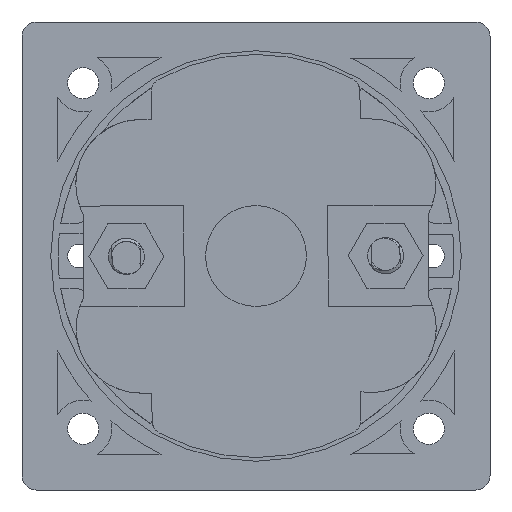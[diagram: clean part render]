
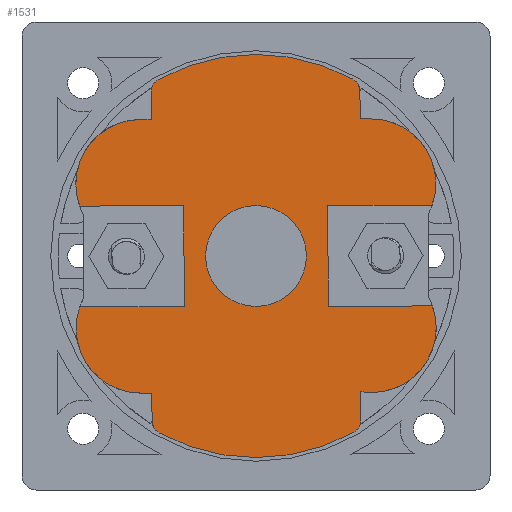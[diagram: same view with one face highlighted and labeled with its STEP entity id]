
A CAD part, front view. The second image highlights one B-rep face of the part: STEP entity #1531.
In plain terms, the highlighted planar face has unit normal (0, -1, 0).
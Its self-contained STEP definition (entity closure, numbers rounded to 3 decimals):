
#1531=ADVANCED_FACE('',(#3430,#3431),#1838,.F.);
#1838=PLANE('',#10195);
#2089=LINE('',#13601,#2772);
#2095=LINE('',#13623,#2778);
#2103=LINE('',#13648,#2786);
#2108=LINE('',#13669,#2791);
#2276=LINE('',#23850,#2959);
#2278=LINE('',#23854,#2961);
#2284=LINE('',#23884,#2967);
#2285=LINE('',#23908,#2968);
#2438=LINE('',#52296,#3121);
#2443=LINE('',#52306,#3126);
#2444=LINE('',#52308,#3127);
#2446=LINE('',#52312,#3129);
#2451=LINE('',#52322,#3134);
#2452=LINE('',#52324,#3135);
#2772=VECTOR('',#11109,1.);
#2778=VECTOR('',#11135,1.);
#2786=VECTOR('',#11153,1.);
#2791=VECTOR('',#11178,1.);
#2959=VECTOR('',#11816,1.);
#2961=VECTOR('',#11820,1.);
#2967=VECTOR('',#11842,1.);
#2968=VECTOR('',#11849,1.);
#3121=VECTOR('',#12156,1.);
#3126=VECTOR('',#12163,1.);
#3127=VECTOR('',#12166,1.);
#3129=VECTOR('',#12172,1.);
#3134=VECTOR('',#12179,1.);
#3135=VECTOR('',#12182,1.);
#3430=FACE_BOUND('',#3952,.T.);
#3431=FACE_BOUND('',#3953,.T.);
#3952=EDGE_LOOP('',(#6236,#6237,#6238,#6239,#6240,#6241,#6242,#6243,#6244,
#6245,#6246,#6247,#6248,#6249,#6250,#6251,#6252,#6253,#6254,#6255,#6256,
#6257,#6258,#6259,#6260));
#3953=EDGE_LOOP('',(#6261));
#6236=ORIENTED_EDGE('',*,*,#9008,.F.);
#6237=ORIENTED_EDGE('',*,*,#8569,.T.);
#6238=ORIENTED_EDGE('',*,*,#8572,.T.);
#6239=ORIENTED_EDGE('',*,*,#8201,.T.);
#6240=ORIENTED_EDGE('',*,*,#8199,.T.);
#6241=ORIENTED_EDGE('',*,*,#8196,.T.);
#6242=ORIENTED_EDGE('',*,*,#8193,.T.);
#6243=ORIENTED_EDGE('',*,*,#8190,.T.);
#6244=ORIENTED_EDGE('',*,*,#8575,.T.);
#6245=ORIENTED_EDGE('',*,*,#8578,.T.);
#6246=ORIENTED_EDGE('',*,*,#8581,.T.);
#6247=ORIENTED_EDGE('',*,*,#9015,.F.);
#6248=ORIENTED_EDGE('',*,*,#9010,.F.);
#6249=ORIENTED_EDGE('',*,*,#9016,.F.);
#6250=ORIENTED_EDGE('',*,*,#8555,.T.);
#6251=ORIENTED_EDGE('',*,*,#8558,.T.);
#6252=ORIENTED_EDGE('',*,*,#8179,.T.);
#6253=ORIENTED_EDGE('',*,*,#8177,.T.);
#6254=ORIENTED_EDGE('',*,*,#8174,.T.);
#6255=ORIENTED_EDGE('',*,*,#8171,.T.);
#6256=ORIENTED_EDGE('',*,*,#8167,.T.);
#6257=ORIENTED_EDGE('',*,*,#8560,.T.);
#6258=ORIENTED_EDGE('',*,*,#8564,.T.);
#6259=ORIENTED_EDGE('',*,*,#9007,.F.);
#6260=ORIENTED_EDGE('',*,*,#9002,.F.);
#6261=ORIENTED_EDGE('',*,*,#9001,.F.);
#7164=VERTEX_POINT('',#13600);
#7165=VERTEX_POINT('',#13602);
#7167=VERTEX_POINT('',#13609);
#7169=VERTEX_POINT('',#13615);
#7170=VERTEX_POINT('',#13620);
#7171=VERTEX_POINT('',#13624);
#7174=VERTEX_POINT('',#13647);
#7175=VERTEX_POINT('',#13649);
#7177=VERTEX_POINT('',#13655);
#7179=VERTEX_POINT('',#13661);
#7180=VERTEX_POINT('',#13666);
#7181=VERTEX_POINT('',#13670);
#7396=VERTEX_POINT('',#23843);
#7397=VERTEX_POINT('',#23845);
#7399=VERTEX_POINT('',#23853);
#7402=VERTEX_POINT('',#23861);
#7405=VERTEX_POINT('',#23877);
#7406=VERTEX_POINT('',#23879);
#7409=VERTEX_POINT('',#23895);
#7411=VERTEX_POINT('',#23907);
#7413=VERTEX_POINT('',#23913);
#7701=VERTEX_POINT('',#52294);
#7702=VERTEX_POINT('',#52297);
#7703=VERTEX_POINT('',#52298);
#7706=VERTEX_POINT('',#52313);
#7707=VERTEX_POINT('',#52314);
#8167=EDGE_CURVE('',#7165,#7164,#2089,.T.);
#8171=EDGE_CURVE('',#7167,#7165,#9364,.T.);
#8174=EDGE_CURVE('',#7169,#7167,#9366,.T.);
#8177=EDGE_CURVE('',#7170,#7169,#9368,.T.);
#8179=EDGE_CURVE('',#7171,#7170,#2095,.T.);
#8190=EDGE_CURVE('',#7175,#7174,#2103,.T.);
#8193=EDGE_CURVE('',#7177,#7175,#9371,.T.);
#8196=EDGE_CURVE('',#7179,#7177,#9373,.T.);
#8199=EDGE_CURVE('',#7180,#7179,#9375,.T.);
#8201=EDGE_CURVE('',#7181,#7180,#2108,.T.);
#8555=EDGE_CURVE('',#7397,#7396,#9472,.T.);
#8558=EDGE_CURVE('',#7396,#7171,#2276,.T.);
#8560=EDGE_CURVE('',#7164,#7399,#2278,.T.);
#8564=EDGE_CURVE('',#7399,#7402,#9475,.T.);
#8569=EDGE_CURVE('',#7406,#7405,#9476,.T.);
#8572=EDGE_CURVE('',#7405,#7181,#2284,.T.);
#8575=EDGE_CURVE('',#7174,#7409,#9478,.T.);
#8578=EDGE_CURVE('',#7409,#7411,#2285,.T.);
#8581=EDGE_CURVE('',#7411,#7413,#9480,.T.);
#9001=EDGE_CURVE('',#7701,#7701,#9500,.T.);
#9002=EDGE_CURVE('',#7702,#7703,#2438,.T.);
#9007=EDGE_CURVE('',#7703,#7402,#2443,.T.);
#9008=EDGE_CURVE('',#7406,#7702,#2444,.T.);
#9010=EDGE_CURVE('',#7706,#7707,#2446,.T.);
#9015=EDGE_CURVE('',#7707,#7413,#2451,.T.);
#9016=EDGE_CURVE('',#7397,#7706,#2452,.T.);
#9364=CIRCLE('',#9840,2.);
#9366=CIRCLE('',#9843,28.);
#9368=CIRCLE('',#9846,2.);
#9371=CIRCLE('',#9855,2.);
#9373=CIRCLE('',#9858,28.);
#9375=CIRCLE('',#9861,2.);
#9472=CIRCLE('',#10095,9.);
#9475=CIRCLE('',#10101,9.);
#9476=CIRCLE('',#10104,9.);
#9478=CIRCLE('',#10108,8.96);
#9480=CIRCLE('',#10112,9.);
#9500=CIRCLE('',#10185,7.);
#9840=AXIS2_PLACEMENT_3D('',#13608,#11116,#11117);
#9843=AXIS2_PLACEMENT_3D('',#13614,#11123,#11124);
#9846=AXIS2_PLACEMENT_3D('',#13619,#11130,#11131);
#9855=AXIS2_PLACEMENT_3D('',#13654,#11159,#11160);
#9858=AXIS2_PLACEMENT_3D('',#13660,#11166,#11167);
#9861=AXIS2_PLACEMENT_3D('',#13665,#11173,#11174);
#10095=AXIS2_PLACEMENT_3D('',#23844,#11809,#11810);
#10101=AXIS2_PLACEMENT_3D('',#23862,#11827,#11828);
#10104=AXIS2_PLACEMENT_3D('',#23878,#11835,#11836);
#10108=AXIS2_PLACEMENT_3D('',#23896,#11845,#11846);
#10112=AXIS2_PLACEMENT_3D('',#23914,#11855,#11856);
#10185=AXIS2_PLACEMENT_3D('',#52293,#12152,#12153);
#10195=AXIS2_PLACEMENT_3D('',#52328,#12188,#12189);
#11109=DIRECTION('',(0.003,0.,-1.));
#11116=DIRECTION('',(0.,-1.,0.));
#11117=DIRECTION('',(1.,0.,0.003));
#11123=DIRECTION('',(0.,-1.,0.));
#11124=DIRECTION('',(1.,0.,0.003));
#11130=DIRECTION('',(0.,-1.,0.));
#11131=DIRECTION('',(1.,0.,0.003));
#11135=DIRECTION('',(-0.003,0.,1.));
#11153=DIRECTION('',(-0.003,0.,1.));
#11159=DIRECTION('',(0.,-1.,0.));
#11160=DIRECTION('',(1.,0.,0.003));
#11166=DIRECTION('',(0.,-1.,0.));
#11167=DIRECTION('',(1.,0.,0.003));
#11173=DIRECTION('',(0.,-1.,0.));
#11174=DIRECTION('',(1.,0.,0.003));
#11178=DIRECTION('',(0.003,0.,-1.));
#11809=DIRECTION('',(0.,-1.,0.));
#11810=DIRECTION('',(1.,0.,0.003));
#11816=DIRECTION('',(-1.,0.,-0.003));
#11820=DIRECTION('',(-1.,0.,-0.003));
#11827=DIRECTION('',(0.,-1.,0.));
#11828=DIRECTION('',(-1.,0.,-0.003));
#11835=DIRECTION('',(0.,-1.,0.));
#11836=DIRECTION('',(-0.89,0.,0.456));
#11842=DIRECTION('',(1.,0.,0.003));
#11845=DIRECTION('',(0.,-1.,0.));
#11846=DIRECTION('',(0.,0.,-1.));
#11849=DIRECTION('',(1.,0.,0.003));
#11855=DIRECTION('',(0.,-1.,0.));
#11856=DIRECTION('',(0.,0.,-1.));
#12152=DIRECTION('',(0.,-1.,0.));
#12153=DIRECTION('',(-1.,0.,-0.003));
#12156=DIRECTION('',(-0.003,0.,1.));
#12163=DIRECTION('',(-1.,0.,-0.003));
#12166=DIRECTION('',(1.,0.,0.003));
#12172=DIRECTION('',(0.003,0.,-1.));
#12179=DIRECTION('',(1.,0.,0.003));
#12182=DIRECTION('',(-1.,0.,-0.003));
#12188=DIRECTION('',(0.,1.,0.));
#12189=DIRECTION('',(0.,0.,1.));
#13600=CARTESIAN_POINT('',(-14.549,-40.6,18.963));
#13601=CARTESIAN_POINT('',(-14.558,-40.6,22.761));
#13602=CARTESIAN_POINT('',(-14.558,-40.6,22.761));
#13608=CARTESIAN_POINT('',(-12.558,-40.6,22.766));
#13609=CARTESIAN_POINT('',(-13.525,-40.6,24.517));
#13614=CARTESIAN_POINT('',(0.,-40.6,0.));
#13615=CARTESIAN_POINT('',(13.398,-40.6,24.586));
#13619=CARTESIAN_POINT('',(12.441,-40.6,22.83));
#13620=CARTESIAN_POINT('',(14.441,-40.6,22.835));
#13623=CARTESIAN_POINT('',(14.451,-40.6,19.037));
#13624=CARTESIAN_POINT('',(14.451,-40.6,19.037));
#13647=CARTESIAN_POINT('',(14.548,-40.6,-18.837));
#13648=CARTESIAN_POINT('',(14.558,-40.6,-22.761));
#13649=CARTESIAN_POINT('',(14.558,-40.6,-22.761));
#13654=CARTESIAN_POINT('',(12.558,-40.6,-22.766));
#13655=CARTESIAN_POINT('',(13.525,-40.6,-24.517));
#13660=CARTESIAN_POINT('',(0.,-40.6,0.));
#13661=CARTESIAN_POINT('',(-13.398,-40.6,-24.586));
#13665=CARTESIAN_POINT('',(-12.441,-40.6,-22.83));
#13666=CARTESIAN_POINT('',(-14.441,-40.6,-22.835));
#13669=CARTESIAN_POINT('',(-14.451,-40.6,-19.037));
#13670=CARTESIAN_POINT('',(-14.451,-40.6,-19.037));
#23843=CARTESIAN_POINT('',(15.951,-40.6,19.041));
#23844=CARTESIAN_POINT('',(15.974,-40.6,10.041));
#23845=CARTESIAN_POINT('',(24.467,-40.6,7.063));
#23850=CARTESIAN_POINT('',(15.951,-40.6,19.041));
#23853=CARTESIAN_POINT('',(-16.049,-40.6,18.959));
#23854=CARTESIAN_POINT('',(-14.549,-40.6,18.963));
#23861=CARTESIAN_POINT('',(-24.503,-40.6,6.937));
#23862=CARTESIAN_POINT('',(-16.026,-40.6,9.959));
#23877=CARTESIAN_POINT('',(-15.951,-40.6,-19.041));
#23878=CARTESIAN_POINT('',(-15.974,-40.6,-10.041));
#23879=CARTESIAN_POINT('',(-24.468,-40.6,-7.063));
#23884=CARTESIAN_POINT('',(23.753,-40.6,-18.934));
#23895=CARTESIAN_POINT('',(15.978,-40.6,-18.959));
#23896=CARTESIAN_POINT('',(16.02,-40.6,-9.999));
#23907=CARTESIAN_POINT('',(16.119,-40.6,-18.958));
#23908=CARTESIAN_POINT('',(23.752,-40.6,-18.938));
#23913=CARTESIAN_POINT('',(24.503,-40.6,-6.937));
#23914=CARTESIAN_POINT('',(16.026,-40.6,-9.959));
#52293=CARTESIAN_POINT('',(0.,-40.6,0.));
#52294=CARTESIAN_POINT('',(-7.,-40.6,-0.018));
#52296=CARTESIAN_POINT('',(-9.982,-40.6,-7.026));
#52297=CARTESIAN_POINT('',(-9.982,-40.6,-7.026));
#52298=CARTESIAN_POINT('',(-10.018,-40.6,6.974));
#52306=CARTESIAN_POINT('',(-10.018,-40.6,6.974));
#52308=CARTESIAN_POINT('',(-34.164,-40.6,-7.088));
#52312=CARTESIAN_POINT('',(9.982,-40.6,7.026));
#52313=CARTESIAN_POINT('',(9.982,-40.6,7.026));
#52314=CARTESIAN_POINT('',(10.018,-40.6,-6.974));
#52322=CARTESIAN_POINT('',(10.018,-40.6,-6.974));
#52324=CARTESIAN_POINT('',(34.164,-40.6,7.088));
#52328=CARTESIAN_POINT('',(23.741,-40.6,-14.593));
